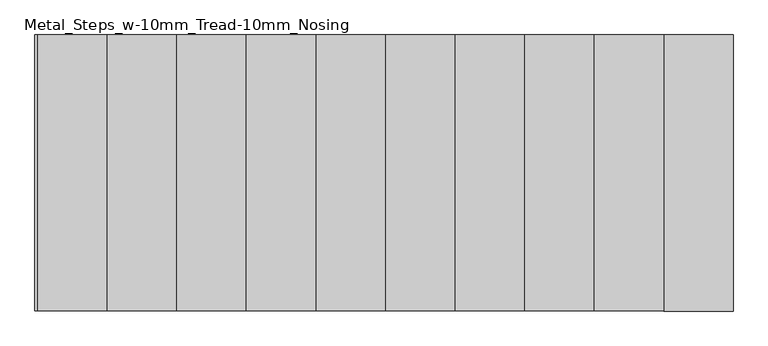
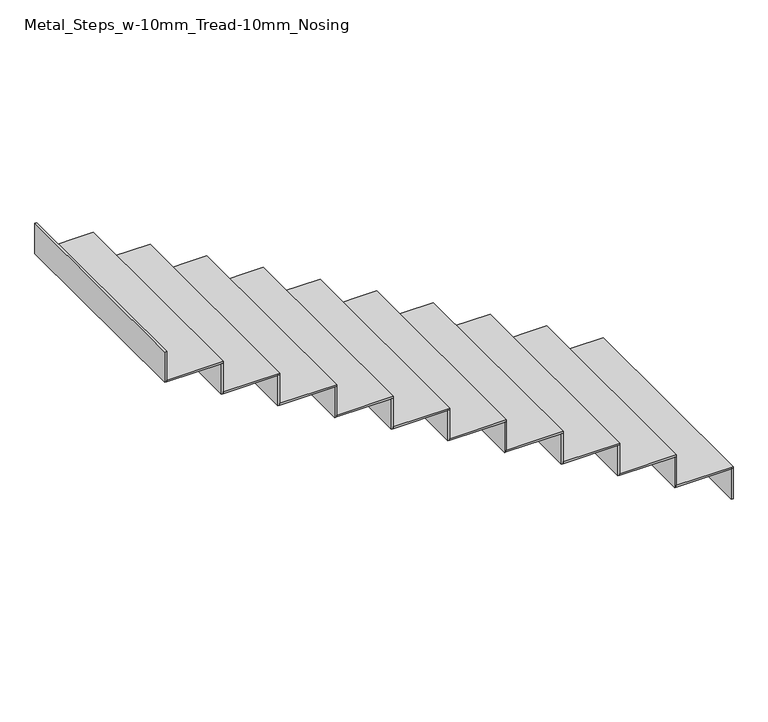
"""IFC4 building model written with IfcOpenShell, lengths in millimetres: stair flight geometry, Metal_Steps_w-10mm_Tread-10mm_Nosing."""

from ifc_helpers import new_model, si_unit, frame, origin, place, context, project, spatial, polyline, outline, extrude, source, transform, mapped, element, save


def metal_steps_w_10mm_tread_10mm_nosing_2b2c8ec8(model_context):
    return source(origin(), model_context, "Body", "SweptSolid", [
        extrude(outline(polyline([(2188.5041438, -2084.8316761), (2198.5041438, -2084.8316761), (2198.5041438, -3274.8316761), (2188.5041438, -3274.8316761), (2188.5041438, -2084.8316761)])), frame((0.0, 0.0, 13125.0), z_axis=(0.0, 0.0, 1.0), x_axis=(1.0, 0.0, 0.0)), (0.0, 0.0, 1.0), 170.4545455),
        extrude(outline(polyline([(1898.5041438, -3274.8316761), (1898.5041438, -2084.8316761), (2198.5041438, -2084.8316761), (2198.5041438, -3274.8316761), (1898.5041438, -3274.8316761)])), frame((0.0, 0.0, 13295.4545455), z_axis=(0.0, 0.0, 1.0), x_axis=(1.0, 0.0, 0.0)), (0.0, 0.0, 1.0), 10.0),
        extrude(outline(polyline([(1888.5041438, -2084.8316761), (1898.5041438, -2084.8316761), (1898.5041438, -3274.8316761), (1888.5041438, -3274.8316761), (1888.5041438, -2084.8316761)])), frame((0.0, 0.0, 13295.4545455), z_axis=(0.0, 0.0, 1.0), x_axis=(1.0, 0.0, 0.0)), (0.0, 0.0, 1.0), 170.4545455),
        extrude(outline(polyline([(1598.5041438, -3274.8316761), (1598.5041438, -2084.8316761), (1898.5041438, -2084.8316761), (1898.5041438, -3274.8316761), (1598.5041438, -3274.8316761)])), frame((0.0, 0.0, 13465.9090909), z_axis=(0.0, 0.0, 1.0), x_axis=(1.0, 0.0, 0.0)), (0.0, 0.0, 1.0), 10.0),
        extrude(outline(polyline([(1588.5041438, -2084.8316761), (1598.5041438, -2084.8316761), (1598.5041438, -3274.8316761), (1588.5041438, -3274.8316761), (1588.5041438, -2084.8316761)])), frame((0.0, 0.0, 13465.9090909), z_axis=(0.0, 0.0, 1.0), x_axis=(1.0, 0.0, 0.0)), (0.0, 0.0, 1.0), 170.4545455),
        extrude(outline(polyline([(1298.5041438, -3274.8316761), (1298.5041438, -2084.8316761), (1598.5041438, -2084.8316761), (1598.5041438, -3274.8316761), (1298.5041438, -3274.8316761)])), frame((0.0, 0.0, 13636.3636364), z_axis=(0.0, 0.0, 1.0), x_axis=(1.0, 0.0, 0.0)), (0.0, 0.0, 1.0), 10.0),
        extrude(outline(polyline([(1288.5041438, -2084.8316761), (1298.5041438, -2084.8316761), (1298.5041438, -3274.8316761), (1288.5041438, -3274.8316761), (1288.5041438, -2084.8316761)])), frame((0.0, 0.0, 13636.3636364), z_axis=(0.0, 0.0, 1.0), x_axis=(1.0, 0.0, 0.0)), (0.0, 0.0, 1.0), 170.4545455),
        extrude(outline(polyline([(998.5041438, -3274.8316761), (998.5041438, -2084.8316761), (1298.5041438, -2084.8316761), (1298.5041438, -3274.8316761), (998.5041438, -3274.8316761)])), frame((0.0, 0.0, 13806.8181818), z_axis=(0.0, 0.0, 1.0), x_axis=(1.0, 0.0, 0.0)), (0.0, 0.0, 1.0), 10.0),
        extrude(outline(polyline([(988.5041438, -2084.8316761), (998.5041438, -2084.8316761), (998.5041438, -3274.8316761), (988.5041438, -3274.8316761), (988.5041438, -2084.8316761)])), frame((0.0, 0.0, 13806.8181818), z_axis=(0.0, 0.0, 1.0), x_axis=(1.0, 0.0, 0.0)), (0.0, 0.0, 1.0), 170.4545455),
        extrude(outline(polyline([(698.5041438, -3274.8316761), (698.5041438, -2084.8316761), (998.5041438, -2084.8316761), (998.5041438, -3274.8316761), (698.5041438, -3274.8316761)])), frame((0.0, 0.0, 13977.2727273), z_axis=(0.0, 0.0, 1.0), x_axis=(1.0, 0.0, 0.0)), (0.0, 0.0, 1.0), 10.0),
        extrude(outline(polyline([(688.5041438, -2084.8316761), (698.5041438, -2084.8316761), (698.5041438, -3274.8316761), (688.5041438, -3274.8316761), (688.5041438, -2084.8316761)])), frame((0.0, 0.0, 13977.2727273), z_axis=(0.0, 0.0, 1.0), x_axis=(1.0, 0.0, 0.0)), (0.0, 0.0, 1.0), 170.4545455),
        extrude(outline(polyline([(398.5041438, -3274.8316761), (398.5041438, -2084.8316761), (698.5041438, -2084.8316761), (698.5041438, -3274.8316761), (398.5041438, -3274.8316761)])), frame((0.0, 0.0, 14147.7272727), z_axis=(0.0, 0.0, 1.0), x_axis=(1.0, 0.0, 0.0)), (0.0, 0.0, 1.0), 10.0),
        extrude(outline(polyline([(388.5041438, -2084.8316761), (398.5041438, -2084.8316761), (398.5041438, -3274.8316761), (388.5041438, -3274.8316761), (388.5041438, -2084.8316761)])), frame((0.0, 0.0, 14147.7272727), z_axis=(0.0, 0.0, 1.0), x_axis=(1.0, 0.0, 0.0)), (0.0, 0.0, 1.0), 170.4545455),
        extrude(outline(polyline([(98.5041438, -3274.8316761), (98.5041438, -2084.8316761), (398.5041438, -2084.8316761), (398.5041438, -3274.8316761), (98.5041438, -3274.8316761)])), frame((0.0, 0.0, 14318.1818182), z_axis=(0.0, 0.0, 1.0), x_axis=(1.0, 0.0, 0.0)), (0.0, 0.0, 1.0), 10.0),
        extrude(outline(polyline([(88.5041438, -2084.8316761), (98.5041438, -2084.8316761), (98.5041438, -3274.8316761), (88.5041438, -3274.8316761), (88.5041438, -2084.8316761)])), frame((0.0, 0.0, 14318.1818182), z_axis=(0.0, 0.0, 1.0), x_axis=(1.0, 0.0, 0.0)), (0.0, 0.0, 1.0), 170.4545455),
        extrude(outline(polyline([(-201.4958562, -3274.8316761), (-201.4958562, -2084.8316761), (98.5041438, -2084.8316761), (98.5041438, -3274.8316761), (-201.4958562, -3274.8316761)])), frame((0.0, 0.0, 14488.6363636), z_axis=(0.0, 0.0, 1.0), x_axis=(1.0, 0.0, 0.0)), (0.0, 0.0, 1.0), 10.0),
        extrude(outline(polyline([(-211.4958562, -2084.8316761), (-201.4958562, -2084.8316761), (-201.4958562, -3274.8316761), (-211.4958562, -3274.8316761), (-211.4958562, -2084.8316761)])), frame((0.0, 0.0, 14488.6363636), z_axis=(0.0, 0.0, 1.0), x_axis=(1.0, 0.0, 0.0)), (0.0, 0.0, 1.0), 170.4545455),
        extrude(outline(polyline([(-501.4958562, -3274.8316761), (-501.4958562, -2084.8316761), (-201.4958562, -2084.8316761), (-201.4958562, -3274.8316761), (-501.4958562, -3274.8316761)])), frame((0.0, 0.0, 14659.0909091), z_axis=(0.0, 0.0, 1.0), x_axis=(1.0, 0.0, 0.0)), (0.0, 0.0, 1.0), 10.0),
        extrude(outline(polyline([(-511.4958562, -2084.8316761), (-501.4958562, -2084.8316761), (-501.4958562, -3274.8316761), (-511.4958562, -3274.8316761), (-511.4958562, -2084.8316761)])), frame((0.0, 0.0, 14659.0909091), z_axis=(0.0, 0.0, 1.0), x_axis=(1.0, 0.0, 0.0)), (0.0, 0.0, 1.0), 170.4545455),
        extrude(outline(polyline([(-811.4958562, -2084.8316761), (-801.4958562, -2084.8316761), (-801.4958562, -3274.8316761), (-811.4958562, -3274.8316761), (-811.4958562, -2084.8316761)])), frame((0.0, 0.0, 14829.5454545), z_axis=(0.0, 0.0, 1.0), x_axis=(1.0, 0.0, 0.0)), (0.0, 0.0, 1.0), 170.4545455),
        extrude(outline(polyline([(-801.4958562, -3274.8316761), (-801.4958562, -2084.8316761), (-501.4958562, -2084.8316761), (-501.4958562, -3274.8316761), (-801.4958562, -3274.8316761)])), frame((0.0, 0.0, 14829.5454545), z_axis=(0.0, 0.0, 1.0), x_axis=(1.0, 0.0, 0.0)), (0.0, 0.0, 1.0), 10.0),
    ])


if __name__ == "__main__":
    model = new_model("IFC4")
    model_context = context("Model", 3, world=origin())
    ifc_project = project(units=[si_unit("LENGTHUNIT", "METRE", prefix="MILLI")], contexts=[model_context])
    site = spatial("IfcSite", under=ifc_project)
    building = spatial("IfcBuilding", under=site)
    placement = place(None, origin())
    metal_steps_w_10mm_tread_10mm_nosing_shape = metal_steps_w_10mm_tread_10mm_nosing_2b2c8ec8(model_context)
    element("IfcStairFlight", 1, ObjectType="Metal_Steps_w-10mm_Tread-10mm_Nosing", at=placement, inside=building, context=model_context, shape_type="MappedRepresentation", body=[
        mapped(metal_steps_w_10mm_tread_10mm_nosing_shape, transform((0.0, 0.0, 0.0), x_axis=(1.0, 0.0, 0.0), y_axis=(0.0, 1.0, 0.0), z_axis=(0.0, 0.0, 1.0))),
    ])
    save(model, "model.ifc")
